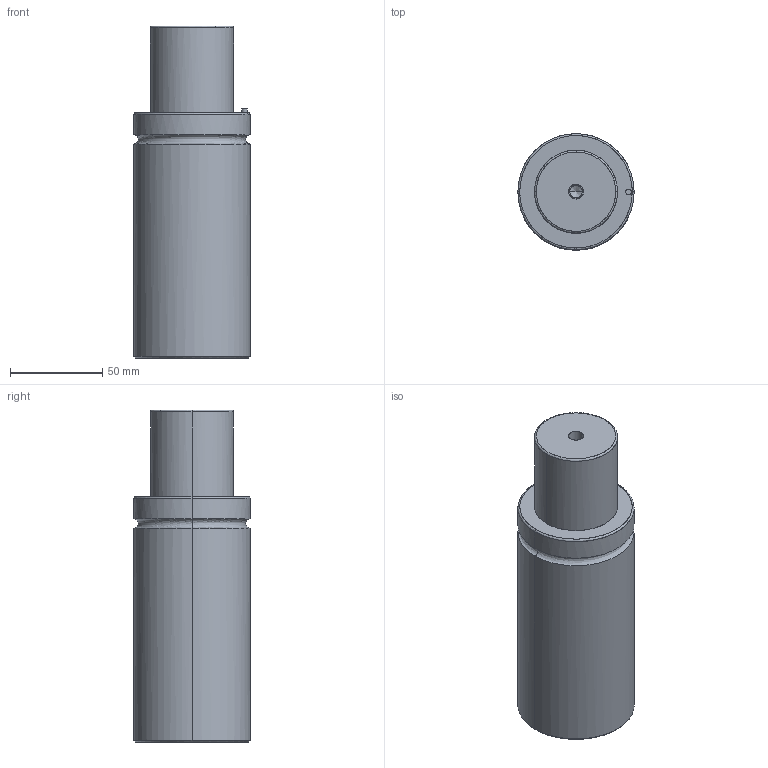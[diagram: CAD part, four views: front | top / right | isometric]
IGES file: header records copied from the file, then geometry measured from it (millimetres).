
Global section: file name: E:\UnigraphicsGraphicData\MISUMI_PRESS-PARTS\IGES\3d_gsm63-45_03909_r00.igs; native system: NX V5.0; preprocessor: UGS NX IGES V5.0; author: MISUMI; date: 20110105.160819; units: millimetre
Bounding box: 63 x 62.94 x 180 mm (x, y, z)
Surface area: 40888.6 mm2 (no closed solid volume)
Topology: 0 solids, 0 shells, 48 faces, 336 edges, 328 vertices
Faces by surface type: bspline 48
